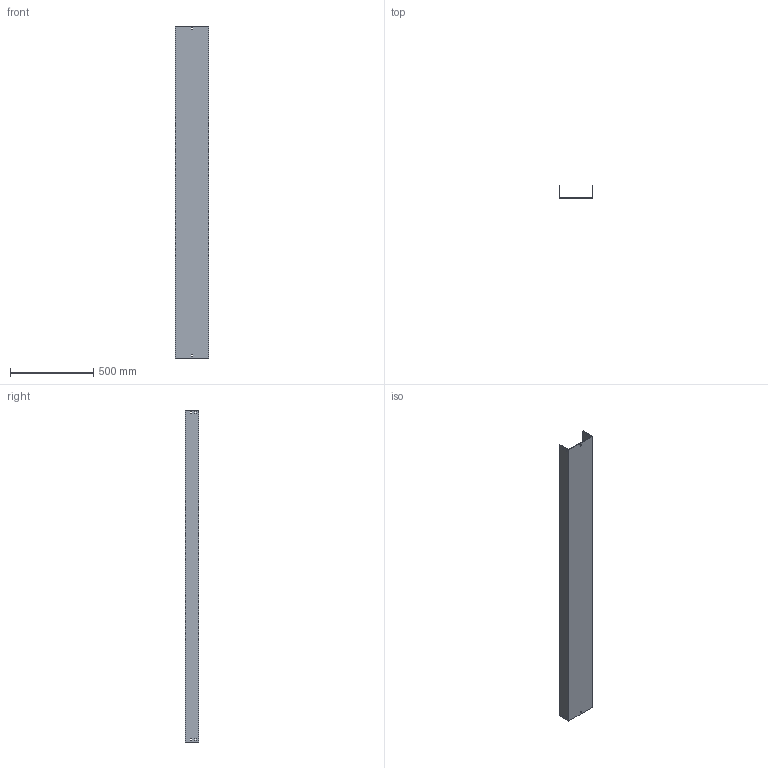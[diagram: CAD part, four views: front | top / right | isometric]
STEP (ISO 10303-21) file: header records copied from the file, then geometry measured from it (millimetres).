
FILE_DESCRIPTION (( 'STEP AP214' ), '1' );
FILE_NAME ('03F2C200.step', '2025-02-21T13:31:49', ( '' ), ( '' ), 'SwSTEP 2.0', 'SolidWorks 2023', '' );
FILE_SCHEMA (( 'AUTOMOTIVE_DESIGN' ));
Length unit declared in the file: millimetre
Products named in the file (1): 03F2C200
Bounding box: 204 x 79 x 2000 mm (x, y, z)
Volume: 2482630.5 mm3; surface area: 1436300 mm2
Topology: 1 solids, 1 shells, 50 faces, 144 edges, 96 vertices
Faces by surface type: plane 50
Entity records: 1671 total; most frequent: CARTESIAN_POINT 291, ORIENTED_EDGE 288, DIRECTION 246, VECTOR 144, LINE 144, EDGE_CURVE 144, VERTEX_POINT 96, EDGE_LOOP 70
